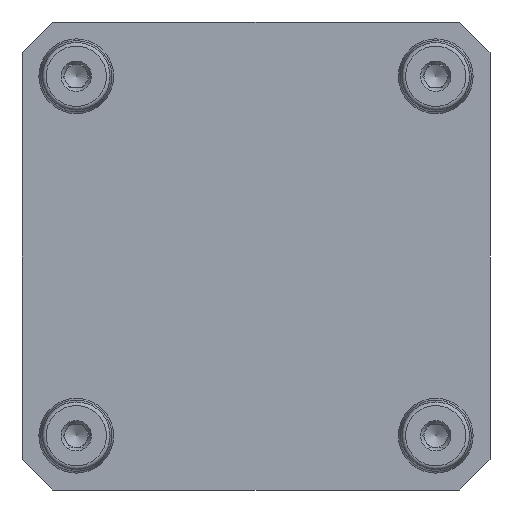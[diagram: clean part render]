
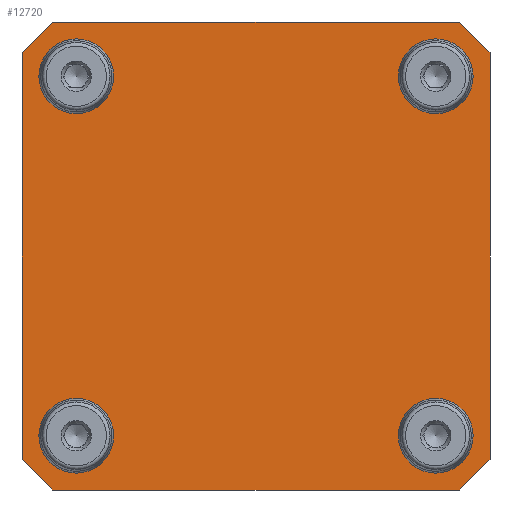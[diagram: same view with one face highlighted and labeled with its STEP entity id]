
A CAD part, front view. The second image highlights one B-rep face of the part: STEP entity #12720.
In plain terms, the highlighted planar face has unit normal (0, -1, 0).
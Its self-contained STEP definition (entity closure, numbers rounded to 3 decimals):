
#17 = EDGE_CURVE ( 'NONE', #6625, #15829, #8246, .T. ) ;
#56 = EDGE_LOOP ( 'NONE', ( #16375 ) ) ;
#327 = AXIS2_PLACEMENT_3D ( 'NONE', #2686, #13375, #4543 ) ;
#469 = DIRECTION ( 'NONE',  ( 0., 0., 1. ) ) ;
#757 = DIRECTION ( 'NONE',  ( 1., 0., 0. ) ) ;
#813 = VECTOR ( 'NONE', #19504, 1000. ) ;
#881 = CIRCLE ( 'NONE', #16701, 8.01 ) ;
#883 = VECTOR ( 'NONE', #4341, 1000. ) ;
#980 = AXIS2_PLACEMENT_3D ( 'NONE', #11927, #3203, #16598 ) ;
#1448 = DIRECTION ( 'NONE',  ( 0., -1., 0. ) ) ;
#1490 = CARTESIAN_POINT ( 'NONE',  ( 48., 0., 56.01 ) ) ;
#1733 = CARTESIAN_POINT ( 'NONE',  ( 48., 0., -48. ) ) ;
#1824 = VERTEX_POINT ( 'NONE', #13141 ) ;
#1988 = CARTESIAN_POINT ( 'NONE',  ( -48., 0., 39.99 ) ) ;
#2220 = VERTEX_POINT ( 'NONE', #10313 ) ;
#2686 = CARTESIAN_POINT ( 'NONE',  ( 0., 0., 0. ) ) ;
#2775 = FACE_BOUND ( 'NONE', #56, .T. ) ;
#3203 = DIRECTION ( 'NONE',  ( 0., -1., 0. ) ) ;
#3347 = CARTESIAN_POINT ( 'NONE',  ( -54.245, 0., -62.5 ) ) ;
#3355 = DIRECTION ( 'NONE',  ( 0.707, 0., 0.707 ) ) ;
#3399 = EDGE_CURVE ( 'NONE', #18098, #15829, #8539, .T. ) ;
#3946 = CARTESIAN_POINT ( 'NONE',  ( -62.5, 0., -62.5 ) ) ;
#4109 = CARTESIAN_POINT ( 'NONE',  ( -48., 0., 48. ) ) ;
#4188 = CIRCLE ( 'NONE', #4834, 8.01 ) ;
#4212 = ORIENTED_EDGE ( 'NONE', *, *, #16560, .T. ) ;
#4341 = DIRECTION ( 'NONE',  ( 0., 0., 1. ) ) ;
#4543 = DIRECTION ( 'NONE',  ( 0., 0., 1. ) ) ;
#4588 = ORIENTED_EDGE ( 'NONE', *, *, #8334, .T. ) ;
#4664 = EDGE_CURVE ( 'NONE', #10036, #10036, #881, .T. ) ;
#4834 = AXIS2_PLACEMENT_3D ( 'NONE', #4109, #1448, #5886 ) ;
#4864 = EDGE_LOOP ( 'NONE', ( #16630 ) ) ;
#4888 = CIRCLE ( 'NONE', #6143, 8.01 ) ;
#4990 = DIRECTION ( 'NONE',  ( 0., 0., -1. ) ) ;
#5036 = CARTESIAN_POINT ( 'NONE',  ( 54.245, 0., -62.5 ) ) ;
#5366 = VECTOR ( 'NONE', #17160, 1000. ) ;
#5625 = ORIENTED_EDGE ( 'NONE', *, *, #3399, .T. ) ;
#5869 = EDGE_CURVE ( 'NONE', #10790, #10814, #9741, .T. ) ;
#5886 = DIRECTION ( 'NONE',  ( 0., 0., -1. ) ) ;
#5924 = PLANE ( 'NONE',  #327 ) ;
#6018 = CARTESIAN_POINT ( 'NONE',  ( 62.5, 0., 54.245 ) ) ;
#6071 = DIRECTION ( 'NONE',  ( 0., -1., 0. ) ) ;
#6143 = AXIS2_PLACEMENT_3D ( 'NONE', #1733, #6071, #13715 ) ;
#6225 = VERTEX_POINT ( 'NONE', #1490 ) ;
#6428 = VERTEX_POINT ( 'NONE', #12659 ) ;
#6625 = VERTEX_POINT ( 'NONE', #10646 ) ;
#6761 = CARTESIAN_POINT ( 'NONE',  ( 62.5, 0., 54.245 ) ) ;
#7659 = EDGE_CURVE ( 'NONE', #16784, #16784, #4888, .T. ) ;
#7855 = CARTESIAN_POINT ( 'NONE',  ( 48., 0., -56.01 ) ) ;
#8138 = VECTOR ( 'NONE', #4990, 1000. ) ;
#8246 = LINE ( 'NONE', #3946, #5366 ) ;
#8334 = EDGE_CURVE ( 'NONE', #10790, #1824, #16557, .T. ) ;
#8374 = LINE ( 'NONE', #12927, #18063 ) ;
#8539 = LINE ( 'NONE', #17755, #16286 ) ;
#8626 = LINE ( 'NONE', #14675, #883 ) ;
#8800 = CARTESIAN_POINT ( 'NONE',  ( -62.5, 0., -54.245 ) ) ;
#9200 = EDGE_CURVE ( 'NONE', #18098, #2220, #8626, .T. ) ;
#9373 = CARTESIAN_POINT ( 'NONE',  ( -48., 0., -48. ) ) ;
#9741 = LINE ( 'NONE', #18464, #8138 ) ;
#9918 = VECTOR ( 'NONE', #757, 1000. ) ;
#10036 = VERTEX_POINT ( 'NONE', #14614 ) ;
#10285 = FACE_OUTER_BOUND ( 'NONE', #16959, .T. ) ;
#10313 = CARTESIAN_POINT ( 'NONE',  ( -62.5, 0., 54.245 ) ) ;
#10646 = CARTESIAN_POINT ( 'NONE',  ( 54.245, 0., -62.5 ) ) ;
#10694 = FACE_BOUND ( 'NONE', #4864, .T. ) ;
#10790 = VERTEX_POINT ( 'NONE', #6761 ) ;
#10814 = VERTEX_POINT ( 'NONE', #11439 ) ;
#10823 = EDGE_LOOP ( 'NONE', ( #15981 ) ) ;
#11081 = VECTOR ( 'NONE', #3355, 1000. ) ;
#11439 = CARTESIAN_POINT ( 'NONE',  ( 62.5, 0., -54.245 ) ) ;
#11522 = DIRECTION ( 'NONE',  ( 0.707, 0., -0.707 ) ) ;
#11927 = CARTESIAN_POINT ( 'NONE',  ( 48., 0., 48. ) ) ;
#11962 = ORIENTED_EDGE ( 'NONE', *, *, #7659, .F. ) ;
#12185 = FACE_BOUND ( 'NONE', #16508, .T. ) ;
#12316 = ORIENTED_EDGE ( 'NONE', *, *, #17, .F. ) ;
#12545 = LINE ( 'NONE', #12933, #9918 ) ;
#12659 = CARTESIAN_POINT ( 'NONE',  ( -54.245, 0., 62.5 ) ) ;
#12720 = ADVANCED_FACE ( 'NONE', ( #10694, #2775, #12185, #19407, #10285 ), #5924, .F. ) ;
#12927 = CARTESIAN_POINT ( 'NONE',  ( -54.245, 0., 62.5 ) ) ;
#12933 = CARTESIAN_POINT ( 'NONE',  ( -62.5, 0., 62.5 ) ) ;
#12948 = EDGE_CURVE ( 'NONE', #6625, #10814, #18416, .T. ) ;
#13141 = CARTESIAN_POINT ( 'NONE',  ( 54.245, 0., 62.5 ) ) ;
#13375 = DIRECTION ( 'NONE',  ( 0., 1., 0. ) ) ;
#13631 = ORIENTED_EDGE ( 'NONE', *, *, #18716, .F. ) ;
#13715 = DIRECTION ( 'NONE',  ( 0., 0., -1. ) ) ;
#13899 = ORIENTED_EDGE ( 'NONE', *, *, #12948, .T. ) ;
#14284 = VERTEX_POINT ( 'NONE', #1988 ) ;
#14591 = CIRCLE ( 'NONE', #980, 8.01 ) ;
#14614 = CARTESIAN_POINT ( 'NONE',  ( -48., 0., -39.99 ) ) ;
#14675 = CARTESIAN_POINT ( 'NONE',  ( -62.5, 0., -62.5 ) ) ;
#15148 = EDGE_CURVE ( 'NONE', #6225, #6225, #14591, .T. ) ;
#15685 = ORIENTED_EDGE ( 'NONE', *, *, #9200, .F. ) ;
#15829 = VERTEX_POINT ( 'NONE', #3347 ) ;
#15981 = ORIENTED_EDGE ( 'NONE', *, *, #18311, .F. ) ;
#16286 = VECTOR ( 'NONE', #11522, 1000. ) ;
#16375 = ORIENTED_EDGE ( 'NONE', *, *, #4664, .F. ) ;
#16508 = EDGE_LOOP ( 'NONE', ( #11962 ) ) ;
#16557 = LINE ( 'NONE', #6018, #813 ) ;
#16560 = EDGE_CURVE ( 'NONE', #6428, #2220, #8374, .T. ) ;
#16598 = DIRECTION ( 'NONE',  ( 0., 0., 1. ) ) ;
#16603 = ORIENTED_EDGE ( 'NONE', *, *, #5869, .F. ) ;
#16630 = ORIENTED_EDGE ( 'NONE', *, *, #15148, .F. ) ;
#16701 = AXIS2_PLACEMENT_3D ( 'NONE', #9373, #18676, #469 ) ;
#16784 = VERTEX_POINT ( 'NONE', #7855 ) ;
#16959 = EDGE_LOOP ( 'NONE', ( #16603, #4588, #13631, #4212, #15685, #5625, #12316, #13899 ) ) ;
#17160 = DIRECTION ( 'NONE',  ( -1., 0., 0. ) ) ;
#17755 = CARTESIAN_POINT ( 'NONE',  ( -62.5, 0., -54.245 ) ) ;
#18063 = VECTOR ( 'NONE', #18943, 1000. ) ;
#18098 = VERTEX_POINT ( 'NONE', #8800 ) ;
#18311 = EDGE_CURVE ( 'NONE', #14284, #14284, #4188, .T. ) ;
#18416 = LINE ( 'NONE', #5036, #11081 ) ;
#18464 = CARTESIAN_POINT ( 'NONE',  ( 62.5, 0., -62.5 ) ) ;
#18676 = DIRECTION ( 'NONE',  ( 0., -1., 0. ) ) ;
#18716 = EDGE_CURVE ( 'NONE', #6428, #1824, #12545, .T. ) ;
#18943 = DIRECTION ( 'NONE',  ( -0.707, 0., -0.707 ) ) ;
#19407 = FACE_BOUND ( 'NONE', #10823, .T. ) ;
#19504 = DIRECTION ( 'NONE',  ( -0.707, 0., 0.707 ) ) ;
